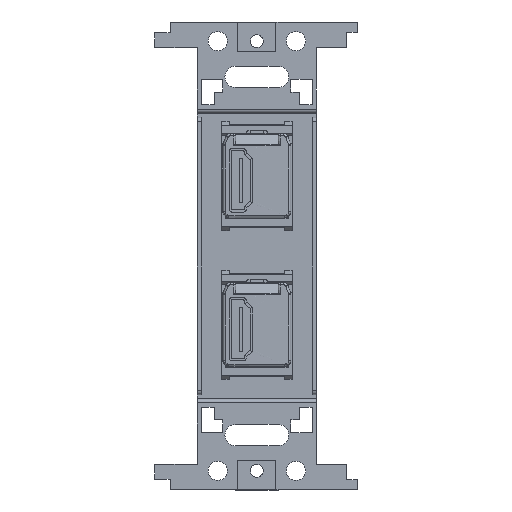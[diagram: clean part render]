
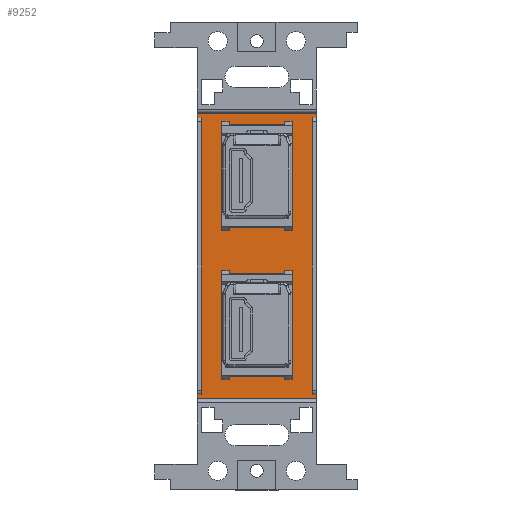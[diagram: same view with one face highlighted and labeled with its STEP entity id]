
A CAD part, top view. The second image highlights one B-rep face of the part: STEP entity #9252.
In plain terms, the highlighted planar face has unit normal (0, 0, 1).
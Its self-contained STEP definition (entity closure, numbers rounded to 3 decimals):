
#8995 = VERTEX_POINT('',#8996);
#8996 = CARTESIAN_POINT('',(-14.,33.5,1.));
#9129 = VERTEX_POINT('',#9130);
#9130 = CARTESIAN_POINT('',(-14.,-33.5,1.));
#9136 = EDGE_CURVE('',#9137,#9129,#9139,.T.);
#9137 = VERTEX_POINT('',#9138);
#9138 = CARTESIAN_POINT('',(-14.,-32.6,1.));
#9139 = LINE('',#9140,#9141);
#9140 = CARTESIAN_POINT('',(-14.,34.5,1.));
#9141 = VECTOR('',#9142,1.);
#9142 = DIRECTION('',(0.,-1.,0.));
#9179 = VERTEX_POINT('',#9180);
#9180 = CARTESIAN_POINT('',(-14.,32.6,1.));
#9186 = EDGE_CURVE('',#8995,#9179,#9187,.T.);
#9187 = LINE('',#9188,#9189);
#9188 = CARTESIAN_POINT('',(-14.,34.5,1.));
#9189 = VECTOR('',#9190,1.);
#9190 = DIRECTION('',(0.,-1.,0.));
#9210 = VERTEX_POINT('',#9211);
#9211 = CARTESIAN_POINT('',(14.,33.5,1.));
#9217 = EDGE_CURVE('',#8995,#9210,#9218,.T.);
#9218 = LINE('',#9219,#9220);
#9219 = CARTESIAN_POINT('',(-14.,33.5,1.));
#9220 = VECTOR('',#9221,1.);
#9221 = DIRECTION('',(1.,0.,0.));
#9252 = ADVANCED_FACE('',(#9253,#9326,#9360),#9394,.T.);
#9253 = FACE_BOUND('',#9254,.T.);
#9254 = EDGE_LOOP('',(#9255,#9263,#9264,#9272,#9280,#9288,#9296,#9304,
    #9310,#9311,#9312,#9320));
#9255 = ORIENTED_EDGE('',*,*,#9256,.F.);
#9256 = EDGE_CURVE('',#9137,#9257,#9259,.T.);
#9257 = VERTEX_POINT('',#9258);
#9258 = CARTESIAN_POINT('',(-13.,-32.6,1.));
#9259 = LINE('',#9260,#9261);
#9260 = CARTESIAN_POINT('',(-14.,-32.6,1.));
#9261 = VECTOR('',#9262,1.);
#9262 = DIRECTION('',(1.,0.,0.));
#9263 = ORIENTED_EDGE('',*,*,#9136,.T.);
#9264 = ORIENTED_EDGE('',*,*,#9265,.F.);
#9265 = EDGE_CURVE('',#9266,#9129,#9268,.T.);
#9266 = VERTEX_POINT('',#9267);
#9267 = CARTESIAN_POINT('',(14.,-33.5,1.));
#9268 = LINE('',#9269,#9270);
#9269 = CARTESIAN_POINT('',(14.,-33.5,1.));
#9270 = VECTOR('',#9271,1.);
#9271 = DIRECTION('',(-1.,0.,0.));
#9272 = ORIENTED_EDGE('',*,*,#9273,.T.);
#9273 = EDGE_CURVE('',#9266,#9274,#9276,.T.);
#9274 = VERTEX_POINT('',#9275);
#9275 = CARTESIAN_POINT('',(14.,-32.6,1.));
#9276 = LINE('',#9277,#9278);
#9277 = CARTESIAN_POINT('',(14.,-34.5,1.));
#9278 = VECTOR('',#9279,1.);
#9279 = DIRECTION('',(0.,1.,0.));
#9280 = ORIENTED_EDGE('',*,*,#9281,.F.);
#9281 = EDGE_CURVE('',#9282,#9274,#9284,.T.);
#9282 = VERTEX_POINT('',#9283);
#9283 = CARTESIAN_POINT('',(13.,-32.6,1.));
#9284 = LINE('',#9285,#9286);
#9285 = CARTESIAN_POINT('',(13.,-32.6,1.));
#9286 = VECTOR('',#9287,1.);
#9287 = DIRECTION('',(1.,0.,0.));
#9288 = ORIENTED_EDGE('',*,*,#9289,.F.);
#9289 = EDGE_CURVE('',#9290,#9282,#9292,.T.);
#9290 = VERTEX_POINT('',#9291);
#9291 = CARTESIAN_POINT('',(13.,32.6,1.));
#9292 = LINE('',#9293,#9294);
#9293 = CARTESIAN_POINT('',(13.,32.6,1.));
#9294 = VECTOR('',#9295,1.);
#9295 = DIRECTION('',(0.,-1.,0.));
#9296 = ORIENTED_EDGE('',*,*,#9297,.F.);
#9297 = EDGE_CURVE('',#9298,#9290,#9300,.T.);
#9298 = VERTEX_POINT('',#9299);
#9299 = CARTESIAN_POINT('',(14.,32.6,1.));
#9300 = LINE('',#9301,#9302);
#9301 = CARTESIAN_POINT('',(14.,32.6,1.));
#9302 = VECTOR('',#9303,1.);
#9303 = DIRECTION('',(-1.,0.,0.));
#9304 = ORIENTED_EDGE('',*,*,#9305,.T.);
#9305 = EDGE_CURVE('',#9298,#9210,#9306,.T.);
#9306 = LINE('',#9307,#9308);
#9307 = CARTESIAN_POINT('',(14.,-34.5,1.));
#9308 = VECTOR('',#9309,1.);
#9309 = DIRECTION('',(0.,1.,0.));
#9310 = ORIENTED_EDGE('',*,*,#9217,.F.);
#9311 = ORIENTED_EDGE('',*,*,#9186,.T.);
#9312 = ORIENTED_EDGE('',*,*,#9313,.F.);
#9313 = EDGE_CURVE('',#9314,#9179,#9316,.T.);
#9314 = VERTEX_POINT('',#9315);
#9315 = CARTESIAN_POINT('',(-13.,32.6,1.));
#9316 = LINE('',#9317,#9318);
#9317 = CARTESIAN_POINT('',(-13.,32.6,1.));
#9318 = VECTOR('',#9319,1.);
#9319 = DIRECTION('',(-1.,0.,0.));
#9320 = ORIENTED_EDGE('',*,*,#9321,.F.);
#9321 = EDGE_CURVE('',#9257,#9314,#9322,.T.);
#9322 = LINE('',#9323,#9324);
#9323 = CARTESIAN_POINT('',(-13.,-32.6,1.));
#9324 = VECTOR('',#9325,1.);
#9325 = DIRECTION('',(0.,1.,0.));
#9326 = FACE_BOUND('',#9327,.T.);
#9327 = EDGE_LOOP('',(#9328,#9338,#9346,#9354));
#9328 = ORIENTED_EDGE('',*,*,#9329,.F.);
#9329 = EDGE_CURVE('',#9330,#9332,#9334,.T.);
#9330 = VERTEX_POINT('',#9331);
#9331 = CARTESIAN_POINT('',(8.4,-4.05,1.));
#9332 = VERTEX_POINT('',#9333);
#9333 = CARTESIAN_POINT('',(-8.4,-4.05,1.));
#9334 = LINE('',#9335,#9336);
#9335 = CARTESIAN_POINT('',(-4.2,-4.05,1.));
#9336 = VECTOR('',#9337,1.);
#9337 = DIRECTION('',(-1.,0.,0.));
#9338 = ORIENTED_EDGE('',*,*,#9339,.F.);
#9339 = EDGE_CURVE('',#9340,#9330,#9342,.T.);
#9340 = VERTEX_POINT('',#9341);
#9341 = CARTESIAN_POINT('',(8.4,-28.35,1.));
#9342 = LINE('',#9343,#9344);
#9343 = CARTESIAN_POINT('',(8.4,-2.025,1.));
#9344 = VECTOR('',#9345,1.);
#9345 = DIRECTION('',(0.,1.,0.));
#9346 = ORIENTED_EDGE('',*,*,#9347,.F.);
#9347 = EDGE_CURVE('',#9348,#9340,#9350,.T.);
#9348 = VERTEX_POINT('',#9349);
#9349 = CARTESIAN_POINT('',(-8.4,-28.35,1.));
#9350 = LINE('',#9351,#9352);
#9351 = CARTESIAN_POINT('',(4.2,-28.35,1.));
#9352 = VECTOR('',#9353,1.);
#9353 = DIRECTION('',(1.,0.,0.));
#9354 = ORIENTED_EDGE('',*,*,#9355,.F.);
#9355 = EDGE_CURVE('',#9332,#9348,#9356,.T.);
#9356 = LINE('',#9357,#9358);
#9357 = CARTESIAN_POINT('',(-8.4,-14.175,1.));
#9358 = VECTOR('',#9359,1.);
#9359 = DIRECTION('',(0.,-1.,0.));
#9360 = FACE_BOUND('',#9361,.T.);
#9361 = EDGE_LOOP('',(#9362,#9372,#9380,#9388));
#9362 = ORIENTED_EDGE('',*,*,#9363,.F.);
#9363 = EDGE_CURVE('',#9364,#9366,#9368,.T.);
#9364 = VERTEX_POINT('',#9365);
#9365 = CARTESIAN_POINT('',(8.4,30.95,1.));
#9366 = VERTEX_POINT('',#9367);
#9367 = CARTESIAN_POINT('',(-8.4,30.95,1.));
#9368 = LINE('',#9369,#9370);
#9369 = CARTESIAN_POINT('',(-4.2,30.95,1.));
#9370 = VECTOR('',#9371,1.);
#9371 = DIRECTION('',(-1.,0.,0.));
#9372 = ORIENTED_EDGE('',*,*,#9373,.F.);
#9373 = EDGE_CURVE('',#9374,#9364,#9376,.T.);
#9374 = VERTEX_POINT('',#9375);
#9375 = CARTESIAN_POINT('',(8.4,6.65,1.));
#9376 = LINE('',#9377,#9378);
#9377 = CARTESIAN_POINT('',(8.4,15.475,1.));
#9378 = VECTOR('',#9379,1.);
#9379 = DIRECTION('',(0.,1.,0.));
#9380 = ORIENTED_EDGE('',*,*,#9381,.F.);
#9381 = EDGE_CURVE('',#9382,#9374,#9384,.T.);
#9382 = VERTEX_POINT('',#9383);
#9383 = CARTESIAN_POINT('',(-8.4,6.65,1.));
#9384 = LINE('',#9385,#9386);
#9385 = CARTESIAN_POINT('',(4.2,6.65,1.));
#9386 = VECTOR('',#9387,1.);
#9387 = DIRECTION('',(1.,0.,0.));
#9388 = ORIENTED_EDGE('',*,*,#9389,.F.);
#9389 = EDGE_CURVE('',#9366,#9382,#9390,.T.);
#9390 = LINE('',#9391,#9392);
#9391 = CARTESIAN_POINT('',(-8.4,3.325,1.));
#9392 = VECTOR('',#9393,1.);
#9393 = DIRECTION('',(0.,-1.,0.));
#9394 = PLANE('',#9395);
#9395 = AXIS2_PLACEMENT_3D('',#9396,#9397,#9398);
#9396 = CARTESIAN_POINT('',(0.,0.,1.));
#9397 = DIRECTION('',(0.,0.,1.));
#9398 = DIRECTION('',(1.,0.,-0.));
